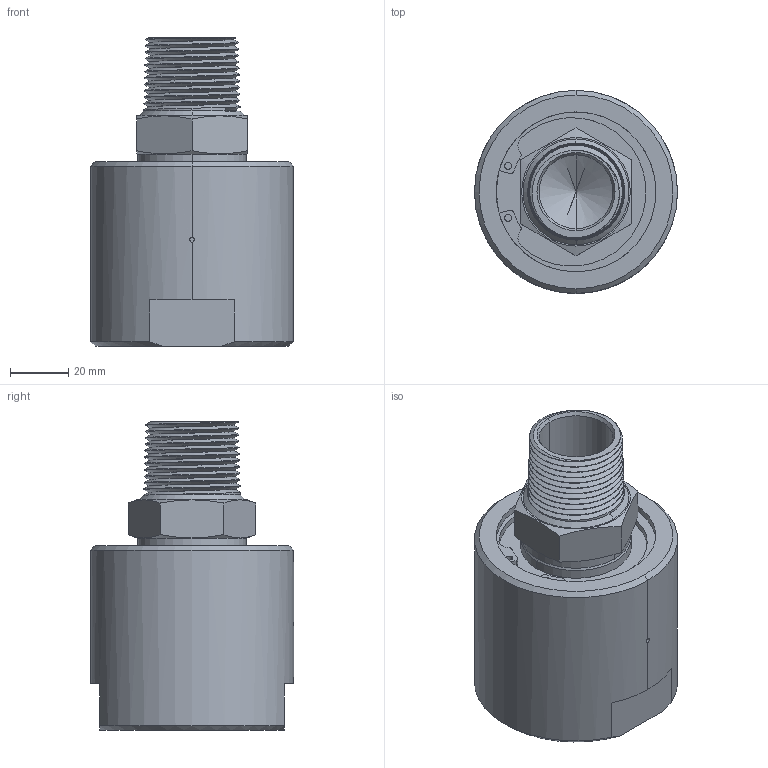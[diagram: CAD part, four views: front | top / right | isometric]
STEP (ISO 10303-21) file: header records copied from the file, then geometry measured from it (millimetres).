
FILE_DESCRIPTION (( 'STEP AP214' ), '1' );
FILE_NAME ('SPS(M)-5610.STEP', '2013-02-08T15:52:17', ( '' ), ( '' ), 'SwSTEP 2.0', 'SolidWorks 2011', '' );
FILE_SCHEMA (( 'AUTOMOTIVE_DESIGN' ));
Length unit declared in the file: inch
Products named in the file (1): SPS(M)-5610
Bounding box: 69.85 x 69.85 x 106.1 mm (x, y, z)
Volume: 242492.8 mm3; surface area: 35077.8 mm2
Topology: 1 solids, 1 shells, 114 faces, 294 edges, 185 vertices
Faces by surface type: cone 50, cylinder 35, plane 24, bspline 5
Entity records: 12717 total; most frequent: CARTESIAN_POINT 9027, ORIENTED_EDGE 572, DIRECTION 515, EDGE_CURVE 286, AXIS2_PLACEMENT_3D 205, VERTEX_POINT 185, EDGE_LOOP 125, FACE_OUTER_BOUND 114
